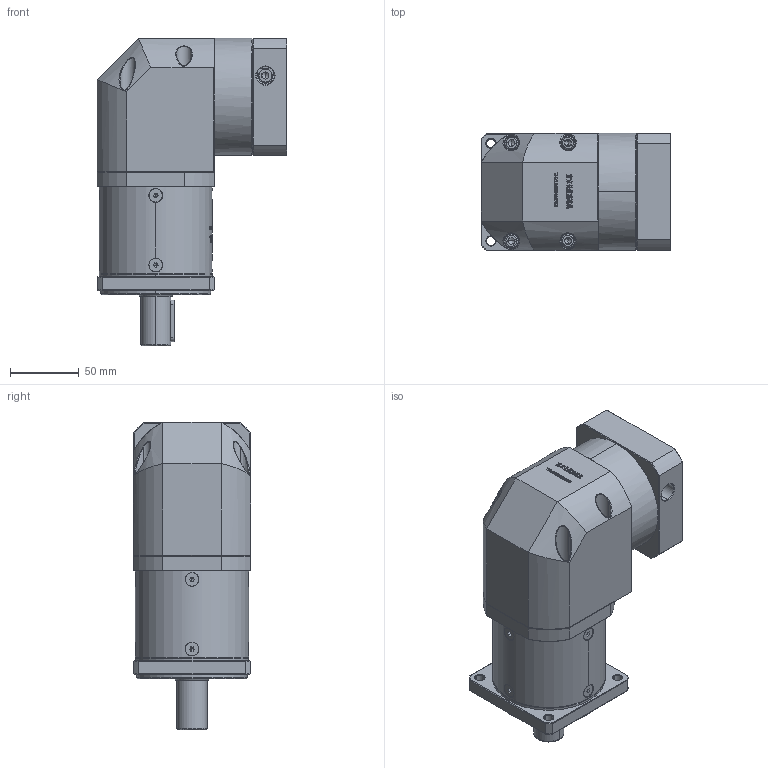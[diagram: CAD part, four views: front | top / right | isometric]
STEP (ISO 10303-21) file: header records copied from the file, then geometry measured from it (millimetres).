
FILE_DESCRIPTION (( 'STEP AP214' ), '1' );
FILE_NAME ('ZF80-D22-L2-14-73-69.6X69.6-M6.step', '2022-05-08T12:00:29', ( '' ), ( 'Microsoft' ), 'SwSTEP 2.0', 'SolidWorks 2016', '' );
FILE_SCHEMA (( 'AUTOMOTIVE_DESIGN' ));
Length unit declared in the file: millimetre
Products named in the file (1): ZF80-D22-L2-14-73-69.6X69.6-M6
Bounding box: 137.6 x 85 x 223 mm (x, y, z)
Volume: 1358229.3 mm3; surface area: 140598.7 mm2
Topology: 13 solids, 13 shells, 3058 faces, 8031 edges, 5121 vertices
Faces by surface type: plane 1619, bspline 624, cylinder 443, cone 358, torus 14
Entity records: 164903 total; most frequent: CARTESIAN_POINT 61597, ORIENTED_EDGE 15970, DIRECTION 12009, EDGE_CURVE 7985, VERTEX_POINT 5121, VECTOR 4967, LINE 4967, AXIS2_PLACEMENT_3D 3521
